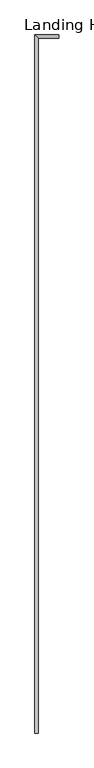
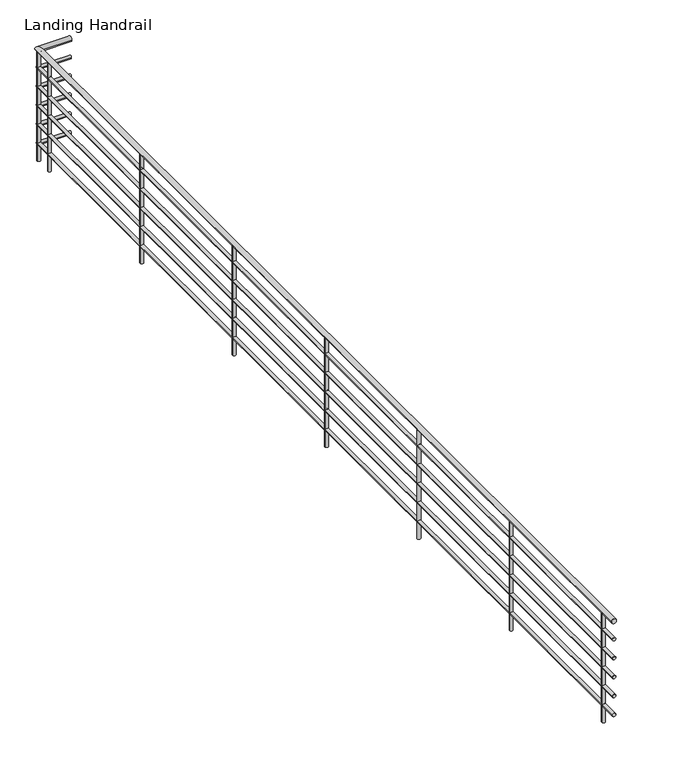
"""IFC4 building model written with IfcOpenShell, lengths in millimetres: railing geometry, Landing Handrail."""

from ifc_helpers import new_model, si_unit, point, frame, frame_2d, origin, place, context, project, spatial, circle_curve, ellipse_curve, trimmed, segment, composite_curve, outline, extrude, source, transform, mapped, element, save
from ifc_brep_helpers import plane_surface, cylinder_surface, advanced_brep


def landing_handrail_5c135aa6(model_context):
    return source(origin(), model_context, "Body", "SolidModel", [
        advanced_brep(
        [(14838.912245, -1351.1137891, 20402.55), (14877.012245, -1351.1137891, 20402.55), (14838.912245, 6262.5362109, 20402.55), (14877.012245, 6224.4362109, 20402.55), (15099.262245, 6262.5362109, 20402.55), (15099.262245, 6224.4362109, 20402.55)],
        [
            (0, 1, circle_curve(frame((14857.962245, -1351.1137891, 20402.55), z_axis=(0.0, -1.0, 0.0), x_axis=(1.0, 0.0, 0.0)), 19.05)),
            (1, 0, circle_curve(frame((14857.962245, -1351.1137891, 20402.55), z_axis=(0.0, -1.0, 0.0), x_axis=(1.0, 0.0, 0.0)), 19.05)),
            (0, 2),
            (2, 3, ellipse_curve(frame((14857.962245, 6243.4862109, 20402.55), z_axis=(-0.7071067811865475, -0.7071067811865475, 0.0), x_axis=(0.7071067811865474, -0.7071067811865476, 0.0)), 26.9407684, 19.05)),
            (3, 1),
            (3, 2, ellipse_curve(frame((14857.962245, 6243.4862109, 20402.55), z_axis=(-0.7071067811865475, -0.7071067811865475, 0.0), x_axis=(0.7071067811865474, -0.7071067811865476, 0.0)), 26.9407684, 19.05)),
            (4, 5, circle_curve(frame((15099.262245, 6243.4862109, 20402.55), z_axis=(1.0, 0.0, 0.0), x_axis=(0.0, -1.0, 0.0)), 19.05)),
            (5, 4, circle_curve(frame((15099.262245, 6243.4862109, 20402.55), z_axis=(1.0, 0.0, 0.0), x_axis=(0.0, -1.0, 0.0)), 19.05)),
            (2, 4),
            (5, 3),
        ],
        [
            plane_surface(frame((14857.962245, -1351.1137891, 20421.6), z_axis=(0.0, -1.0, 0.0), x_axis=(0.0, 0.0, 1.0))),
            cylinder_surface(frame((14857.962245, -1351.1137891, 20402.55), z_axis=(0.0, -1.0, 0.0), x_axis=(1.0, 0.0, 0.0)), 19.05),
            plane_surface(frame((15099.262245, 6243.4862109, 20421.6), z_axis=(1.0, 0.0, 0.0), x_axis=(0.0, 1.0, 0.0))),
            cylinder_surface(frame((14857.962245, 6243.4862109, 20402.55), z_axis=(-1.0, 0.0, 0.0), x_axis=(0.0, -1.0, 0.0)), 19.05),
        ],
        [
            (0, [[1, 2]]),
            (1, [[-1, 3, 4, 5]]),
            (1, [[-2, -5, 6, -3]]),
            (2, [[7, 8]]),
            (3, [[-4, 9, -8, 10]]),
            (3, [[-6, -10, -7, -9]]),
        ],
    ),
        advanced_brep(
        [(14845.262245, -1351.1137891, 20256.5), (14870.662245, -1351.1137891, 20256.5), (14845.262245, 6256.1862109, 20256.5), (14870.662245, 6230.7862109, 20256.5), (15099.262245, 6256.1862109, 20256.5), (15099.262245, 6230.7862109, 20256.5)],
        [
            (0, 1, circle_curve(frame((14857.962245, -1351.1137891, 20256.5), z_axis=(0.0, -1.0, 0.0), x_axis=(1.0, 0.0, 0.0)), 12.7)),
            (1, 0, circle_curve(frame((14857.962245, -1351.1137891, 20256.5), z_axis=(0.0, -1.0, 0.0), x_axis=(1.0, 0.0, 0.0)), 12.7)),
            (0, 2),
            (2, 3, ellipse_curve(frame((14857.962245, 6243.4862109, 20256.5), z_axis=(-0.7071067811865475, -0.7071067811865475, 0.0), x_axis=(0.7071067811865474, -0.7071067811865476, 0.0)), 17.9605122, 12.7)),
            (3, 1),
            (3, 2, ellipse_curve(frame((14857.962245, 6243.4862109, 20256.5), z_axis=(-0.7071067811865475, -0.7071067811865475, 0.0), x_axis=(0.7071067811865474, -0.7071067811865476, 0.0)), 17.9605122, 12.7)),
            (4, 5, circle_curve(frame((15099.262245, 6243.4862109, 20256.5), z_axis=(1.0, 0.0, 0.0), x_axis=(0.0, -1.0, 0.0)), 12.7)),
            (5, 4, circle_curve(frame((15099.262245, 6243.4862109, 20256.5), z_axis=(1.0, 0.0, 0.0), x_axis=(0.0, -1.0, 0.0)), 12.7)),
            (2, 4),
            (5, 3),
        ],
        [
            plane_surface(frame((14857.962245, -1351.1137891, 20269.2), z_axis=(0.0, -1.0, 0.0), x_axis=(0.0, 0.0, 1.0))),
            cylinder_surface(frame((14857.962245, -1351.1137891, 20256.5), z_axis=(0.0, -1.0, 0.0), x_axis=(1.0, 0.0, 0.0)), 12.7),
            plane_surface(frame((15099.262245, 6243.4862109, 20269.2), z_axis=(1.0, 0.0, 0.0), x_axis=(0.0, 1.0, 0.0))),
            cylinder_surface(frame((14857.962245, 6243.4862109, 20256.5), z_axis=(-1.0, 0.0, 0.0), x_axis=(0.0, -1.0, 0.0)), 12.7),
        ],
        [
            (0, [[1, 2]]),
            (1, [[-1, 3, 4, 5]]),
            (1, [[-2, -5, 6, -3]]),
            (2, [[7, 8]]),
            (3, [[-4, 9, -8, 10]]),
            (3, [[-6, -10, -7, -9]]),
        ],
    ),
        advanced_brep(
        [(14845.262245, -1351.1137891, 20104.1), (14870.662245, -1351.1137891, 20104.1), (14845.262245, 6256.1862109, 20104.1), (14870.662245, 6230.7862109, 20104.1), (15099.262245, 6256.1862109, 20104.1), (15099.262245, 6230.7862109, 20104.1)],
        [
            (0, 1, circle_curve(frame((14857.962245, -1351.1137891, 20104.1), z_axis=(0.0, -1.0, 0.0), x_axis=(1.0, 0.0, 0.0)), 12.7)),
            (1, 0, circle_curve(frame((14857.962245, -1351.1137891, 20104.1), z_axis=(0.0, -1.0, 0.0), x_axis=(1.0, 0.0, 0.0)), 12.7)),
            (0, 2),
            (2, 3, ellipse_curve(frame((14857.962245, 6243.4862109, 20104.1), z_axis=(-0.7071067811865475, -0.7071067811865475, 0.0), x_axis=(0.7071067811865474, -0.7071067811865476, 0.0)), 17.9605122, 12.7)),
            (3, 1),
            (3, 2, ellipse_curve(frame((14857.962245, 6243.4862109, 20104.1), z_axis=(-0.7071067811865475, -0.7071067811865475, 0.0), x_axis=(0.7071067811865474, -0.7071067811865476, 0.0)), 17.9605122, 12.7)),
            (4, 5, circle_curve(frame((15099.262245, 6243.4862109, 20104.1), z_axis=(1.0, 0.0, 0.0), x_axis=(0.0, -1.0, 0.0)), 12.7)),
            (5, 4, circle_curve(frame((15099.262245, 6243.4862109, 20104.1), z_axis=(1.0, 0.0, 0.0), x_axis=(0.0, -1.0, 0.0)), 12.7)),
            (2, 4),
            (5, 3),
        ],
        [
            plane_surface(frame((14857.962245, -1351.1137891, 20116.8), z_axis=(0.0, -1.0, 0.0), x_axis=(0.0, 0.0, 1.0))),
            cylinder_surface(frame((14857.962245, -1351.1137891, 20104.1), z_axis=(0.0, -1.0, 0.0), x_axis=(1.0, 0.0, 0.0)), 12.7),
            plane_surface(frame((15099.262245, 6243.4862109, 20116.8), z_axis=(1.0, 0.0, 0.0), x_axis=(0.0, 1.0, 0.0))),
            cylinder_surface(frame((14857.962245, 6243.4862109, 20104.1), z_axis=(-1.0, 0.0, 0.0), x_axis=(0.0, -1.0, 0.0)), 12.7),
        ],
        [
            (0, [[1, 2]]),
            (1, [[-1, 3, 4, 5]]),
            (1, [[-2, -5, 6, -3]]),
            (2, [[7, 8]]),
            (3, [[-4, 9, -8, 10]]),
            (3, [[-6, -10, -7, -9]]),
        ],
    ),
        advanced_brep(
        [(14845.262245, -1351.1137891, 19951.7), (14870.662245, -1351.1137891, 19951.7), (14845.262245, 6256.1862109, 19951.7), (14870.662245, 6230.7862109, 19951.7), (15099.262245, 6256.1862109, 19951.7), (15099.262245, 6230.7862109, 19951.7)],
        [
            (0, 1, circle_curve(frame((14857.962245, -1351.1137891, 19951.7), z_axis=(0.0, -1.0, 0.0), x_axis=(1.0, 0.0, 0.0)), 12.7)),
            (1, 0, circle_curve(frame((14857.962245, -1351.1137891, 19951.7), z_axis=(0.0, -1.0, 0.0), x_axis=(1.0, 0.0, 0.0)), 12.7)),
            (0, 2),
            (2, 3, ellipse_curve(frame((14857.962245, 6243.4862109, 19951.7), z_axis=(-0.7071067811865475, -0.7071067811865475, 0.0), x_axis=(0.7071067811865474, -0.7071067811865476, 0.0)), 17.9605122, 12.7)),
            (3, 1),
            (3, 2, ellipse_curve(frame((14857.962245, 6243.4862109, 19951.7), z_axis=(-0.7071067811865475, -0.7071067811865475, 0.0), x_axis=(0.7071067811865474, -0.7071067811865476, 0.0)), 17.9605122, 12.7)),
            (4, 5, circle_curve(frame((15099.262245, 6243.4862109, 19951.7), z_axis=(1.0, 0.0, 0.0), x_axis=(0.0, -1.0, 0.0)), 12.7)),
            (5, 4, circle_curve(frame((15099.262245, 6243.4862109, 19951.7), z_axis=(1.0, 0.0, 0.0), x_axis=(0.0, -1.0, 0.0)), 12.7)),
            (2, 4),
            (5, 3),
        ],
        [
            plane_surface(frame((14857.962245, -1351.1137891, 19964.4), z_axis=(0.0, -1.0, 0.0), x_axis=(0.0, 0.0, 1.0))),
            cylinder_surface(frame((14857.962245, -1351.1137891, 19951.7), z_axis=(0.0, -1.0, 0.0), x_axis=(1.0, 0.0, 0.0)), 12.7),
            plane_surface(frame((15099.262245, 6243.4862109, 19964.4), z_axis=(1.0, 0.0, 0.0), x_axis=(0.0, 1.0, 0.0))),
            cylinder_surface(frame((14857.962245, 6243.4862109, 19951.7), z_axis=(-1.0, 0.0, 0.0), x_axis=(0.0, -1.0, 0.0)), 12.7),
        ],
        [
            (0, [[1, 2]]),
            (1, [[-1, 3, 4, 5]]),
            (1, [[-2, -5, 6, -3]]),
            (2, [[7, 8]]),
            (3, [[-4, 9, -8, 10]]),
            (3, [[-6, -10, -7, -9]]),
        ],
    ),
        advanced_brep(
        [(14845.262245, -1351.1137891, 19799.3), (14870.662245, -1351.1137891, 19799.3), (14845.262245, 6256.1862109, 19799.3), (14870.662245, 6230.7862109, 19799.3), (15099.262245, 6256.1862109, 19799.3), (15099.262245, 6230.7862109, 19799.3)],
        [
            (0, 1, circle_curve(frame((14857.962245, -1351.1137891, 19799.3), z_axis=(0.0, -1.0, 0.0), x_axis=(1.0, 0.0, 0.0)), 12.7)),
            (1, 0, circle_curve(frame((14857.962245, -1351.1137891, 19799.3), z_axis=(0.0, -1.0, 0.0), x_axis=(1.0, 0.0, 0.0)), 12.7)),
            (0, 2),
            (2, 3, ellipse_curve(frame((14857.962245, 6243.4862109, 19799.3), z_axis=(-0.7071067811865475, -0.7071067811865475, 0.0), x_axis=(0.7071067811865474, -0.7071067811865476, 0.0)), 17.9605122, 12.7)),
            (3, 1),
            (3, 2, ellipse_curve(frame((14857.962245, 6243.4862109, 19799.3), z_axis=(-0.7071067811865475, -0.7071067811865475, 0.0), x_axis=(0.7071067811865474, -0.7071067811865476, 0.0)), 17.9605122, 12.7)),
            (4, 5, circle_curve(frame((15099.262245, 6243.4862109, 19799.3), z_axis=(1.0, 0.0, 0.0), x_axis=(0.0, -1.0, 0.0)), 12.7)),
            (5, 4, circle_curve(frame((15099.262245, 6243.4862109, 19799.3), z_axis=(1.0, 0.0, 0.0), x_axis=(0.0, -1.0, 0.0)), 12.7)),
            (2, 4),
            (5, 3),
        ],
        [
            plane_surface(frame((14857.962245, -1351.1137891, 19812.0), z_axis=(0.0, -1.0, 0.0), x_axis=(0.0, 0.0, 1.0))),
            cylinder_surface(frame((14857.962245, -1351.1137891, 19799.3), z_axis=(0.0, -1.0, 0.0), x_axis=(1.0, 0.0, 0.0)), 12.7),
            plane_surface(frame((15099.262245, 6243.4862109, 19812.0), z_axis=(1.0, 0.0, 0.0), x_axis=(0.0, 1.0, 0.0))),
            cylinder_surface(frame((14857.962245, 6243.4862109, 19799.3), z_axis=(-1.0, 0.0, 0.0), x_axis=(0.0, -1.0, 0.0)), 12.7),
        ],
        [
            (0, [[1, 2]]),
            (1, [[-1, 3, 4, 5]]),
            (1, [[-2, -5, 6, -3]]),
            (2, [[7, 8]]),
            (3, [[-4, 9, -8, 10]]),
            (3, [[-6, -10, -7, -9]]),
        ],
    ),
        advanced_brep(
        [(14845.262245, -1351.1137891, 19646.9), (14870.662245, -1351.1137891, 19646.9), (14845.262245, 6256.1862109, 19646.9), (14870.662245, 6230.7862109, 19646.9), (15099.262245, 6256.1862109, 19646.9), (15099.262245, 6230.7862109, 19646.9)],
        [
            (0, 1, circle_curve(frame((14857.962245, -1351.1137891, 19646.9), z_axis=(0.0, -1.0, 0.0), x_axis=(1.0, 0.0, 0.0)), 12.7)),
            (1, 0, circle_curve(frame((14857.962245, -1351.1137891, 19646.9), z_axis=(0.0, -1.0, 0.0), x_axis=(1.0, 0.0, 0.0)), 12.7)),
            (0, 2),
            (2, 3, ellipse_curve(frame((14857.962245, 6243.4862109, 19646.9), z_axis=(-0.7071067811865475, -0.7071067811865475, 0.0), x_axis=(0.7071067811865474, -0.7071067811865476, 0.0)), 17.9605122, 12.7)),
            (3, 1),
            (3, 2, ellipse_curve(frame((14857.962245, 6243.4862109, 19646.9), z_axis=(-0.7071067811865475, -0.7071067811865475, 0.0), x_axis=(0.7071067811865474, -0.7071067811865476, 0.0)), 17.9605122, 12.7)),
            (4, 5, circle_curve(frame((15099.262245, 6243.4862109, 19646.9), z_axis=(1.0, 0.0, 0.0), x_axis=(0.0, -1.0, 0.0)), 12.7)),
            (5, 4, circle_curve(frame((15099.262245, 6243.4862109, 19646.9), z_axis=(1.0, 0.0, 0.0), x_axis=(0.0, -1.0, 0.0)), 12.7)),
            (2, 4),
            (5, 3),
        ],
        [
            plane_surface(frame((14857.962245, -1351.1137891, 19659.6), z_axis=(0.0, -1.0, 0.0), x_axis=(0.0, 0.0, 1.0))),
            cylinder_surface(frame((14857.962245, -1351.1137891, 19646.9), z_axis=(0.0, -1.0, 0.0), x_axis=(1.0, 0.0, 0.0)), 12.7),
            plane_surface(frame((15099.262245, 6243.4862109, 19659.6), z_axis=(1.0, 0.0, 0.0), x_axis=(0.0, 1.0, 0.0))),
            cylinder_surface(frame((14857.962245, 6243.4862109, 19646.9), z_axis=(-1.0, 0.0, 0.0), x_axis=(0.0, -1.0, 0.0)), 12.7),
        ],
        [
            (0, [[1, 2]]),
            (1, [[-1, 3, 4, 5]]),
            (1, [[-2, -5, 6, -3]]),
            (2, [[7, 8]]),
            (3, [[-4, 9, -8, 10]]),
            (3, [[-6, -10, -7, -9]]),
        ],
    ),
        extrude(outline(composite_curve([segment(trimmed(circle_curve(frame_2d((14857.962245, 6103.7862109)), 12.7), [point((14845.262245, 6103.7862109))], [point((14870.662245, 6103.7862109))], False, "CARTESIAN"), True, "CONTINUOUS"), segment(trimmed(circle_curve(frame_2d((14857.962245, 6103.7862109)), 12.7), [point((14870.662245, 6103.7862109))], [point((14845.262245, 6103.7862109))], False, "CARTESIAN"), True, "CONTINUOUS")], self_intersect=False)), frame((0.0, 0.0, 19507.2), z_axis=(0.0, 0.0, 1.0), x_axis=(1.0, 0.0, 0.0)), (0.0, 0.0, 1.0), 876.3),
        extrude(outline(composite_curve([segment(trimmed(circle_curve(frame_2d((14857.962245, 4884.5862109)), 12.7), [point((14845.262245, 4884.5862109))], [point((14870.662245, 4884.5862109))], False, "CARTESIAN"), True, "CONTINUOUS"), segment(trimmed(circle_curve(frame_2d((14857.962245, 4884.5862109)), 12.7), [point((14870.662245, 4884.5862109))], [point((14845.262245, 4884.5862109))], False, "CARTESIAN"), True, "CONTINUOUS")], self_intersect=False)), frame((0.0, 0.0, 19507.2), z_axis=(0.0, 0.0, 1.0), x_axis=(1.0, 0.0, 0.0)), (0.0, 0.0, 1.0), 876.3),
        extrude(outline(composite_curve([segment(trimmed(circle_curve(frame_2d((14857.962245, 3665.3862109)), 12.7), [point((14845.262245, 3665.3862109))], [point((14870.662245, 3665.3862109))], False, "CARTESIAN"), True, "CONTINUOUS"), segment(trimmed(circle_curve(frame_2d((14857.962245, 3665.3862109)), 12.7), [point((14870.662245, 3665.3862109))], [point((14845.262245, 3665.3862109))], False, "CARTESIAN"), True, "CONTINUOUS")], self_intersect=False)), frame((0.0, 0.0, 19507.2), z_axis=(0.0, 0.0, 1.0), x_axis=(1.0, 0.0, 0.0)), (0.0, 0.0, 1.0), 876.3),
        extrude(outline(composite_curve([segment(trimmed(circle_curve(frame_2d((14857.962245, 2446.1862109)), 12.7), [point((14845.262245, 2446.1862109))], [point((14870.662245, 2446.1862109))], False, "CARTESIAN"), True, "CONTINUOUS"), segment(trimmed(circle_curve(frame_2d((14857.962245, 2446.1862109)), 12.7), [point((14870.662245, 2446.1862109))], [point((14845.262245, 2446.1862109))], False, "CARTESIAN"), True, "CONTINUOUS")], self_intersect=False)), frame((0.0, 0.0, 19507.2), z_axis=(0.0, 0.0, 1.0), x_axis=(1.0, 0.0, 0.0)), (0.0, 0.0, 1.0), 876.3),
        extrude(outline(composite_curve([segment(trimmed(circle_curve(frame_2d((14857.962245, 1226.9862109)), 12.7), [point((14845.262245, 1226.9862109))], [point((14870.662245, 1226.9862109))], False, "CARTESIAN"), True, "CONTINUOUS"), segment(trimmed(circle_curve(frame_2d((14857.962245, 1226.9862109)), 12.7), [point((14870.662245, 1226.9862109))], [point((14845.262245, 1226.9862109))], False, "CARTESIAN"), True, "CONTINUOUS")], self_intersect=False)), frame((0.0, 0.0, 19507.2), z_axis=(0.0, 0.0, 1.0), x_axis=(1.0, 0.0, 0.0)), (0.0, 0.0, 1.0), 876.3),
        extrude(outline(composite_curve([segment(trimmed(circle_curve(frame_2d((14857.962245, 7.7862109)), 12.7), [point((14845.262245, 7.7862109))], [point((14870.662245, 7.7862109))], False, "CARTESIAN"), True, "CONTINUOUS"), segment(trimmed(circle_curve(frame_2d((14857.962245, 7.7862109)), 12.7), [point((14870.662245, 7.7862109))], [point((14845.262245, 7.7862109))], False, "CARTESIAN"), True, "CONTINUOUS")], self_intersect=False)), frame((0.0, 0.0, 19507.2), z_axis=(0.0, 0.0, 1.0), x_axis=(1.0, 0.0, 0.0)), (0.0, 0.0, 1.0), 876.3),
        extrude(outline(composite_curve([segment(trimmed(circle_curve(frame_2d((14857.962245, -1211.4137891)), 12.7), [point((14845.262245, -1211.4137891))], [point((14870.662245, -1211.4137891))], False, "CARTESIAN"), True, "CONTINUOUS"), segment(trimmed(circle_curve(frame_2d((14857.962245, -1211.4137891)), 12.7), [point((14870.662245, -1211.4137891))], [point((14845.262245, -1211.4137891))], False, "CARTESIAN"), True, "CONTINUOUS")], self_intersect=False)), frame((0.0, 0.0, 19507.2), z_axis=(0.0, 0.0, 1.0), x_axis=(1.0, 0.0, 0.0)), (0.0, 0.0, 1.0), 876.3),
        extrude(outline(composite_curve([segment(trimmed(circle_curve(frame_2d((14857.962245, 6243.4862109)), 12.7), [point((14845.262245, 6243.4862109))], [point((14870.662245, 6243.4862109))], False, "CARTESIAN"), True, "CONTINUOUS"), segment(trimmed(circle_curve(frame_2d((14857.962245, 6243.4862109)), 12.7), [point((14870.662245, 6243.4862109))], [point((14845.262245, 6243.4862109))], False, "CARTESIAN"), True, "CONTINUOUS")], self_intersect=False)), frame((0.0, 0.0, 19507.2), z_axis=(0.0, 0.0, 1.0), x_axis=(1.0, 0.0, 0.0)), (0.0, 0.0, 1.0), 876.3),
    ])


if __name__ == "__main__":
    model = new_model("IFC4")
    model_context = context("Model", 3, world=origin())
    ifc_project = project(units=[si_unit("LENGTHUNIT", "METRE", prefix="MILLI")], contexts=[model_context])
    site = spatial("IfcSite", under=ifc_project)
    building = spatial("IfcBuilding", under=site)
    placement = place(None, origin())
    landing_handrail_shape = landing_handrail_5c135aa6(model_context)
    element("IfcRailing", 1, ObjectType="Landing Handrail", at=placement, inside=building, context=model_context, shape_type="MappedRepresentation", body=[
        mapped(landing_handrail_shape, transform((0.0, 0.0, 0.0), x_axis=(1.0, 0.0, 0.0), y_axis=(0.0, 1.0, 0.0), z_axis=(0.0, 0.0, 1.0))),
    ])
    save(model, "model.ifc")
